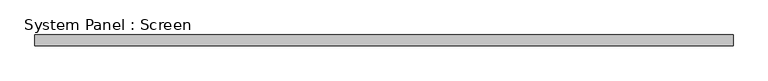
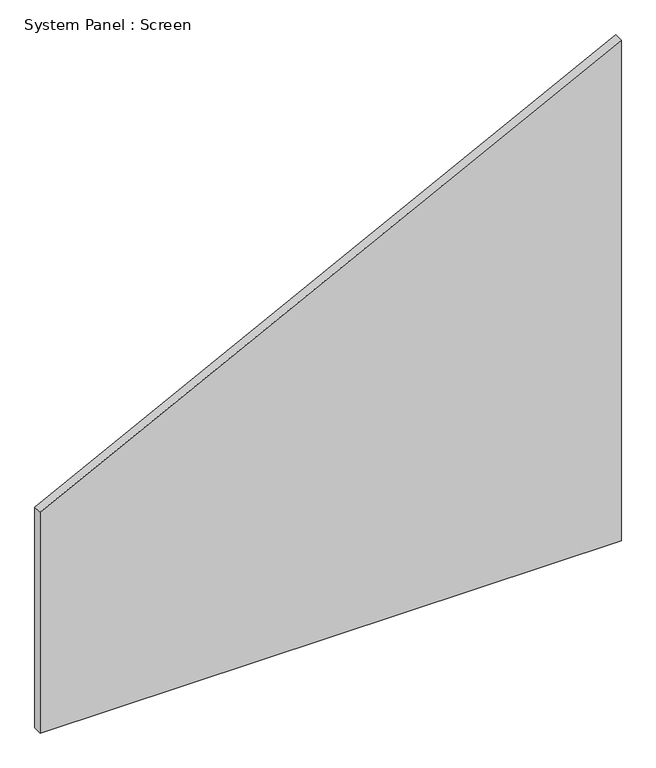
"""IFC4 building model written with IfcOpenShell, lengths in millimetres: plate geometry, System Panel : Screen."""

from ifc_helpers import new_model, si_unit, frame, origin, place, context, project, spatial, polyline, outline, extrude, source, transform, mapped, element, save


def system_panel_screen_35475e27(model_context):
    return source(origin(), model_context, "Body", "SweptSolid", [
        extrude(outline(polyline([(0.0, -823.7945933), (0.0, 823.7945933), (1499.3389604, 823.7945933), (661.8413206, -823.7945933), (0.0, -823.7945933)])), frame((0.0, -12.7, 0.0), z_axis=(0.0, 1.0, 0.0), x_axis=(0.0, 0.0, 1.0)), (0.0, 0.0, 1.0), 25.4),
    ])


if __name__ == "__main__":
    model = new_model("IFC4")
    model_context = context("Model", 3, world=origin())
    ifc_project = project(units=[si_unit("LENGTHUNIT", "METRE", prefix="MILLI")], contexts=[model_context])
    site = spatial("IfcSite", under=ifc_project)
    building = spatial("IfcBuilding", under=site)
    placement = place(None, origin())
    system_panel_screen_shape = system_panel_screen_35475e27(model_context)
    element("IfcPlate", 1, ObjectType="System Panel : Screen", at=placement, inside=building, context=model_context, shape_type="MappedRepresentation", body=[
        mapped(system_panel_screen_shape, transform((0.0, 0.0, 0.0), x_axis=(1.0, 0.0, 0.0), y_axis=(0.0, 1.0, 0.0), z_axis=(0.0, 0.0, 1.0))),
    ])
    save(model, "model.ifc")
